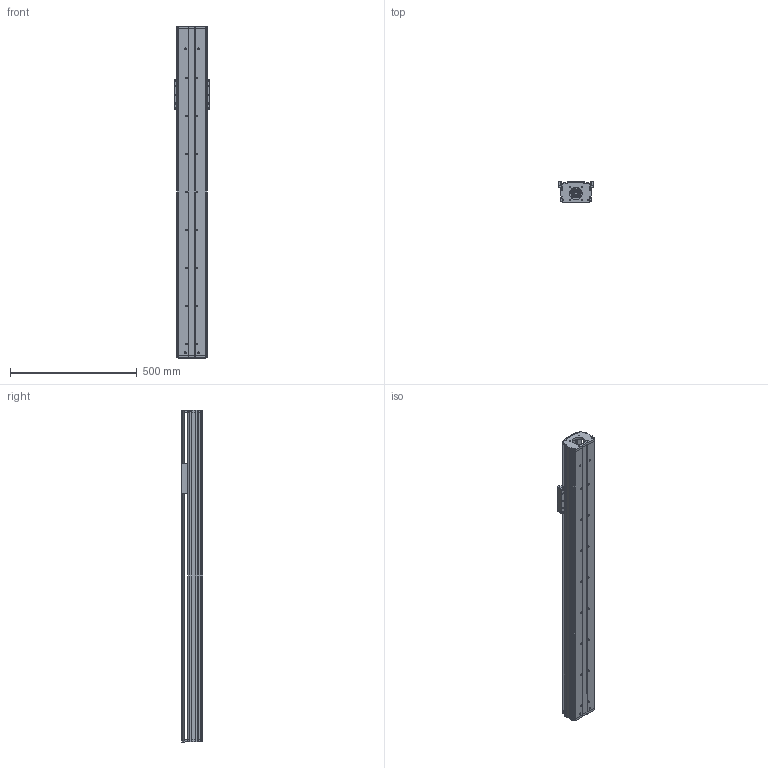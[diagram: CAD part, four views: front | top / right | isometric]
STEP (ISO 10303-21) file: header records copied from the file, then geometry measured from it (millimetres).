
FILE_DESCRIPTION (( 'STEP AP203' ), '1' );
FILE_NAME ('CF120-P1100.STEP', '2016-02-23T02:35:11', ( 'Sky123.Org' ), ( 'Sky123.Org' ), 'SwSTEP 2.0', 'SolidWorks 2015', '' );
FILE_SCHEMA (( 'CONFIG_CONTROL_DESIGN' ));
Length unit declared in the file: millimetre
Products named in the file (15): EK12+EF12-P600-744; SFU1605-3蹟譫; CF120-P350-540臏倰第; EK12; CF120-P350-560裔啣; 粣創結啣; CF120-P1100; EF12; CF120賑雄啣; cf120-60萇儂釱; CF120蹟譫釱; CF120傷裔耜啣-sigan; EGR15-P600-880; EGH-15-CABZnew
Assembly tree (18 placements, depth 3):
  CF120-P1100
    cf120-60萇儂釱
    CF120傷裔耜啣-sigan
    EGH-15-CABZnew  x4
    SFU1605-3蹟譫
    EK12
      EK12
      粣創結啣
    EF12
    CF120賑雄啣
    CF120蹟譫釱
    EGR15-P600-880  x2
    EK12+EF12-P600-744
    CF120-P350-540臏倰第
    CF120-P350-560裔啣
Bounding box: 140 x 84.5 x 1310 mm (x, y, z)
Volume: 4324393.2 mm3; surface area: 1465515 mm2
Topology: 13 solids, 65 shells, 7339 faces, 27630 edges, 18989 vertices
Faces by surface type: plane 3547, bspline 2351, cylinder 1051, cone 150, torus 136, sphere 104
Entity records: 132067 total; most frequent: CARTESIAN_POINT 58074, ORIENTED_EDGE 15782, DIRECTION 12403, EDGE_CURVE 9015, VERTEX_POINT 6142, VECTOR 5233, LINE 5233, AXIS2_PLACEMENT_3D 3585
